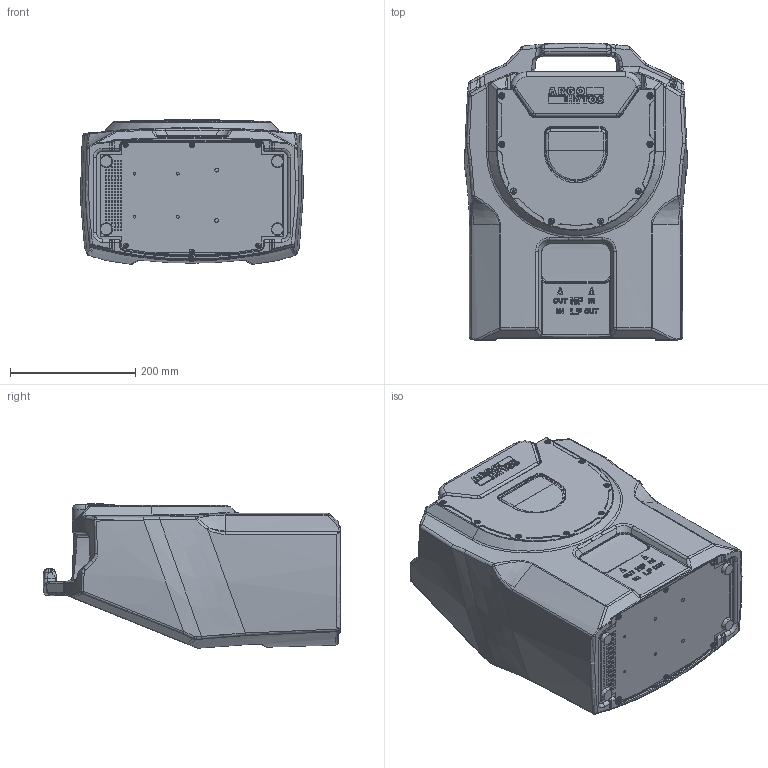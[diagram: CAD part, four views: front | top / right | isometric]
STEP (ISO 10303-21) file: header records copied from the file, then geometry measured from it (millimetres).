
FILE_DESCRIPTION((''),'2;1');
FILE_NAME('1000431626','2023-10-17T',('e.kawala'),(''),'PRO/ENGINEER BY PARAMETRIC TECHNOLOGY CORPORATION, 2015110','PRO/ENGINEER BY PARAMETRIC TECHNOLOGY CORPORATION, 2015110','');
FILE_SCHEMA(('AUTOMOTIVE_DESIGN { 1 0 10303 214 1 1 1 1 }'));
Length unit declared in the file: millimetre
Products named in the file (1): 1000431626
Bounding box: 355.92 x 474.8 x 230.33 mm (x, y, z)
Volume: 24561523.1 mm3; surface area: 841175.3 mm2
Topology: 1 solids, 25 shells, 4129 faces, 9851 edges, 5862 vertices
Faces by surface type: cylinder 1311, plane 1289, bspline 766, torus 359, extrusion 190, sphere 107, cone 107
Entity records: 252842 total; most frequent: CARTESIAN_POINT 100266, ORIENTED_EDGE 19342, DIRECTION 16883, PRESENTATION_STYLE_ASSIGNMENT 13840, STYLED_ITEM 9862, CURVE_STYLE 9861, EDGE_CURVE 9671, AXIS2_PLACEMENT_3D 6258
